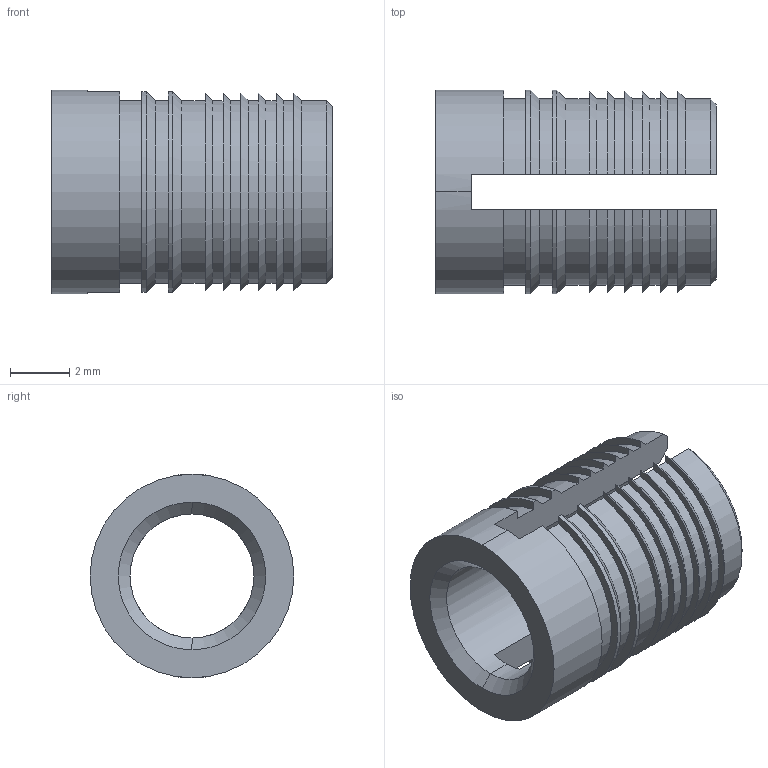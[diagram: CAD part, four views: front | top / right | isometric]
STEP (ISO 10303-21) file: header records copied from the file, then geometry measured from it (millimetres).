
FILE_DESCRIPTION (( 'STEP AP203' ), '1' );
FILE_NAME ('FSUK-EXPP-M05-S.STEP', '2021-04-15T09:24:32', ( '' ), ( '' ), 'SwSTEP 2.0', 'SolidWorks 2021', '' );
FILE_SCHEMA (( 'CONFIG_CONTROL_DESIGN' ));
Length unit declared in the file: millimetre
Products named in the file (1): FSUK-EXPP-M05-S
Bounding box: 9.5 x 6.9 x 6.9 mm (x, y, z)
Volume: 161.2 mm3; surface area: 411.9 mm2
Topology: 1 solids, 1 shells, 75 faces, 220 edges, 146 vertices
Faces by surface type: plane 27, cylinder 26, cone 22
Entity records: 2637 total; most frequent: CARTESIAN_POINT 562, ORIENTED_EDGE 440, DIRECTION 410, EDGE_CURVE 220, AXIS2_PLACEMENT_3D 154, VERTEX_POINT 146, LINE 102, VECTOR 102
